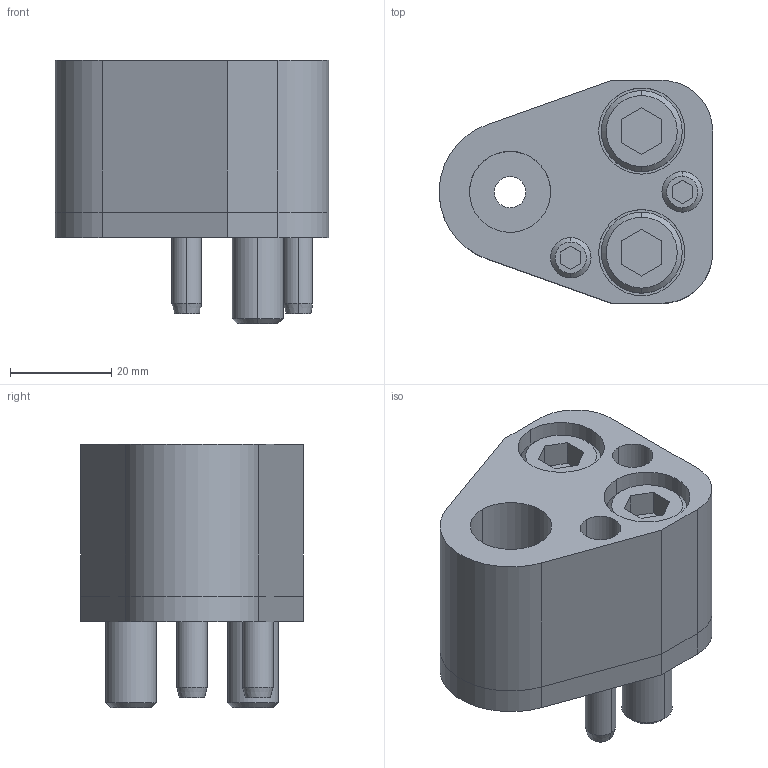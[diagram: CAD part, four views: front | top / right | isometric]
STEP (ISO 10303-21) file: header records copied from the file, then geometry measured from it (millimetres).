
FILE_DESCRIPTION(/* description */ (''),/* implementation_level */ '2;1');
FILE_NAME(/* name */ '3d_cp-ap16_02852_r00.stp',/* time_stamp */ '2011-01-10T14:16:30+09:00',/* author */ ('MISUMI'),/* organization */ (''),/* preprocessor_version */ 'ST-DEVELOPER v11',/* originating_system */ 'UGS - NX 5.0',/* authorisation */ '');
FILE_SCHEMA (('CONFIG_CONTROL_DESIGN'));
Length unit declared in the file: millimetre
Products named in the file (1): 3d_cp-ap16_02852_r00
Bounding box: 53.95 x 44 x 52 mm (x, y, z)
Volume: 58385.5 mm3; surface area: 24349.8 mm2
Topology: 8 solids, 8 shells, 152 faces, 340 edges, 218 vertices
Faces by surface type: plane 66, cylinder 60, cone 26
Entity records: 4397 total; most frequent: DIRECTION 788, CARTESIAN_POINT 762, ORIENTED_EDGE 680, EDGE_CURVE 340, AXIS2_PLACEMENT_3D 299, VERTEX_POINT 218, LINE 190, VECTOR 190
